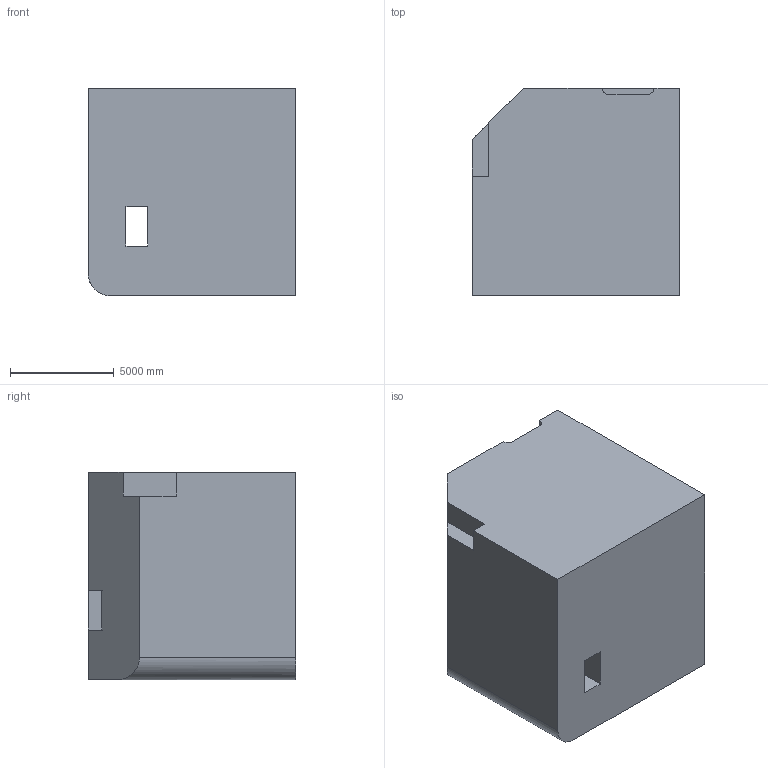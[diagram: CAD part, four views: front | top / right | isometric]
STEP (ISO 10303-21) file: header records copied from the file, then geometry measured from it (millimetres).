
FILE_DESCRIPTION (( 'STEP AP203' ), '1' );
FILE_NAME ('48.STEP', '2022-09-01T11:46:04', ( 'user' ), ( '' ), 'SwSTEP 2.0', 'SolidWorks 2021', '' );
FILE_SCHEMA (( 'CONFIG_CONTROL_DESIGN' ));
Length unit declared in the file: centimetre
Products named in the file (1): 48
Bounding box: 10000 x 10000 x 10000 mm (x, y, z)
Volume: 941144406923.1 mm3; surface area: 631177238.2 mm2
Topology: 1 solids, 1 shells, 19 faces, 54 edges, 36 vertices
Faces by surface type: plane 16, cylinder 3
Entity records: 694 total; most frequent: CARTESIAN_POINT 113, ORIENTED_EDGE 108, DIRECTION 98, EDGE_CURVE 54, VECTOR 48, LINE 48, VERTEX_POINT 36, AXIS2_PLACEMENT_3D 25
